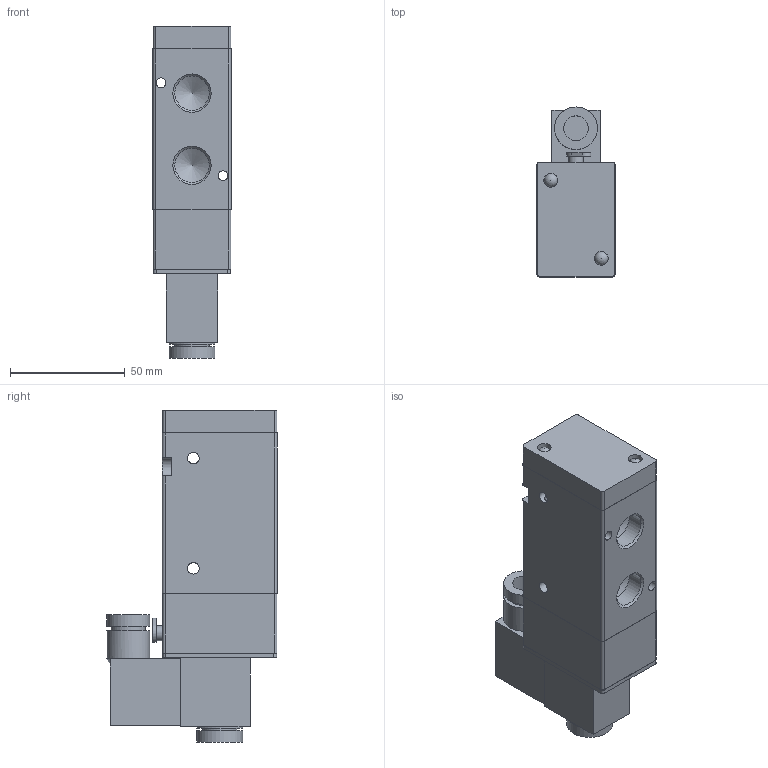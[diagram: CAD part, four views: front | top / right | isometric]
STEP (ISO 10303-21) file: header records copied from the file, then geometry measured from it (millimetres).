
FILE_DESCRIPTION( ( 'STEP AP214' ), '1' );
FILE_NAME( 'C:/Users/emc02044/Desktop/RV三通/RV3241-10E1.stp', '2026-07-30T12:34:59', ( 'License CC BY-ND 4.0' ), ( 'CADENAS' ), ' ', 'PARTsolutions', ' ' );
FILE_SCHEMA( ( 'AUTOMOTIVE_DESIGN { 1 0 10303 214 1 1 1 1 }' ) );
Length unit declared in the file: millimetre
Products named in the file (2): RV3241-10E1; _RV3241-10E1-body
Assembly tree (1 placements, depth 2):
  RV3241-10E1
    _RV3241-10E1-body
Bounding box: 34 x 74.2 x 144.7 mm (x, y, z)
Volume: 218956.7 mm3; surface area: 33881.1 mm2
Topology: 1 solids, 1 shells, 96 faces, 244 edges, 162 vertices
Faces by surface type: plane 48, cylinder 39, cone 7, sphere 2
Full cylindrical faces by diameter (mm): 4.3 x2, 5 x2, 6 x2, 6.5 x1, 10.8 x1, 14.95 x3, 15 x2, 18.6 x2, 20 x2
Entity records: 3633 total; most frequent: CARTESIAN_POINT 586, DIRECTION 479, ORIENTED_EDGE 408, EDGE_CURVE 204, AXIS2_PLACEMENT_3D 180, VERTEX_POINT 153, EDGE_LOOP 146, LINE 119
